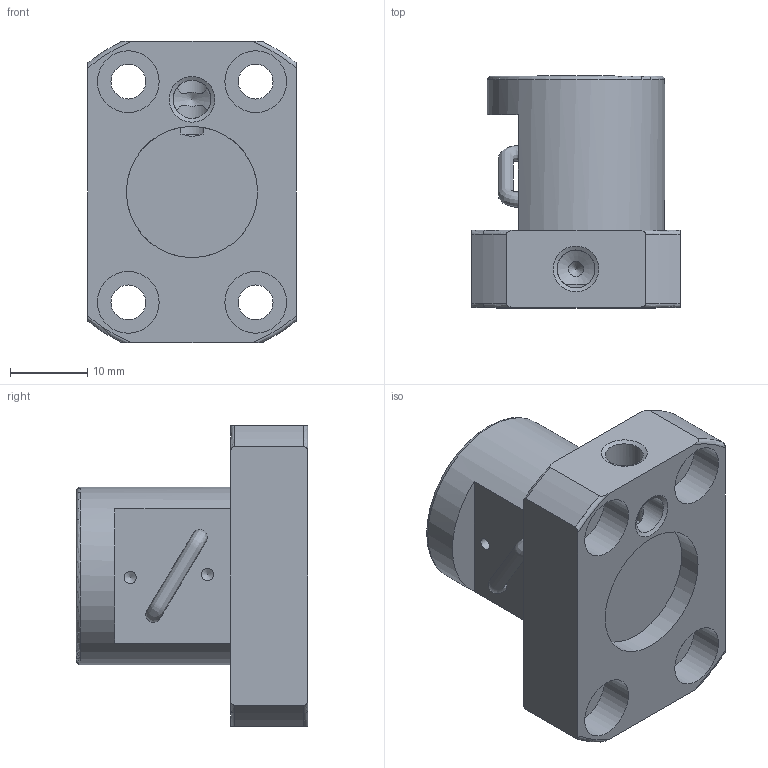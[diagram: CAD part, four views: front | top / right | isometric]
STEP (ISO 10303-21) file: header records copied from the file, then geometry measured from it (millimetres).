
FILE_DESCRIPTION(/* description */ ('Unknown'),/* implementation_level */ '2;1');
FILE_NAME(/* name */ '1002',/* time_stamp */ '2020-11-06T17:20:59+08:00',/* author */ ('Unknown'),/* organization */ ('Unknown'),/* preprocessor_version */ 'ST-DEVELOPER v16.7',/* originating_system */ 'DEX',/* authorisation */ $);
FILE_SCHEMA (('AUTOMOTIVE_DESIGN {1 0 10303 214 3 1 1}'));
Length unit declared in the file: millimetre
Products named in the file (1): 1002
Bounding box: 27 x 30 x 39 mm (x, y, z)
Volume: 14996.6 mm3; surface area: 6072.2 mm2
Topology: 1 solids, 1 shells, 58 faces, 155 edges, 102 vertices
Faces by surface type: cylinder 26, plane 15, torus 9, cone 7, bspline 1
Full cylindrical faces by diameter (mm): 1.567 x2, 2 x1, 4.5 x4, 4.917 x4, 8 x4, 17 x2, 23 x1
Entity records: 3799 total; most frequent: CARTESIAN_POINT 2088, DIRECTION 274, ORIENTED_EDGE 220, AXIS2_PLACEMENT_3D 126, EDGE_CURVE 110, FACE_BOUND 106, EDGE_LOOP 102, VERTEX_POINT 88
